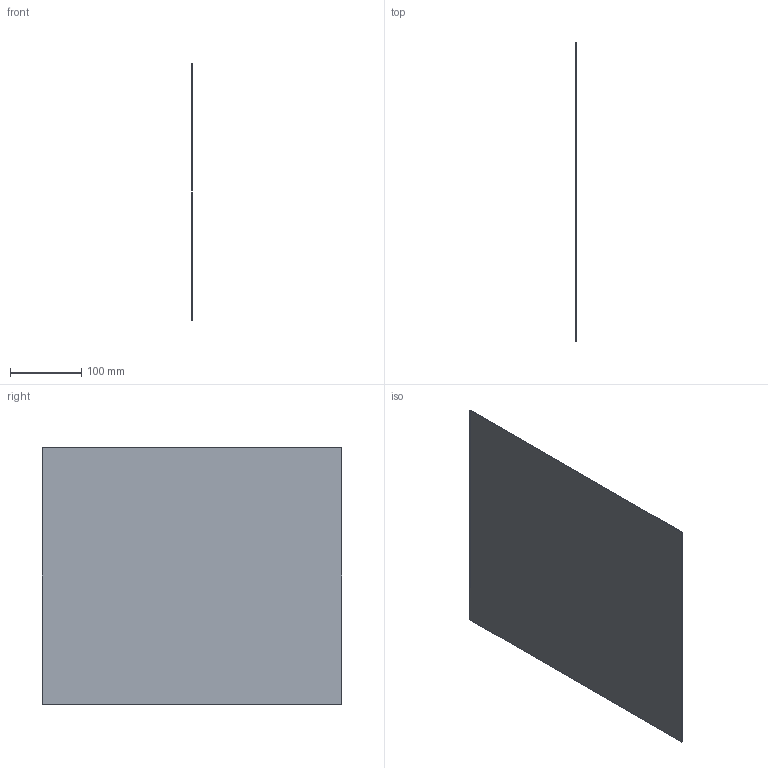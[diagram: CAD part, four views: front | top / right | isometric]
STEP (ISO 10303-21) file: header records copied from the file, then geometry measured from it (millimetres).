
FILE_DESCRIPTION(('Open CASCADE Model'),'2;1');
FILE_NAME('Open CASCADE Shape Model','2026-10-16T18:03:45',('Author'),( 'Open CASCADE'),'Open CASCADE STEP processor 7.8','Open CASCADE 7.8' ,'Unknown');
FILE_SCHEMA(('AUTOMOTIVE_DESIGN { 1 0 10303 214 1 1 1 1 }'));
Length unit declared in the file: millimetre
Products named in the file (1): Open CASCADE STEP translator 7.8 39
Bounding box: 1 x 420 x 360 mm (x, y, z)
Volume: 151200 mm3; surface area: 303960 mm2
Topology: 1 solids, 1 shells, 6 faces, 12 edges, 8 vertices
Faces by surface type: plane 6
Entity records: 322 total; most frequent: CARTESIAN_POINT 51, DIRECTION 50, LINE 36, VECTOR 36, ORIENTED_EDGE 24, PCURVE 24, DEFINITIONAL_REPRESENTATION 24, EDGE_CURVE 12
